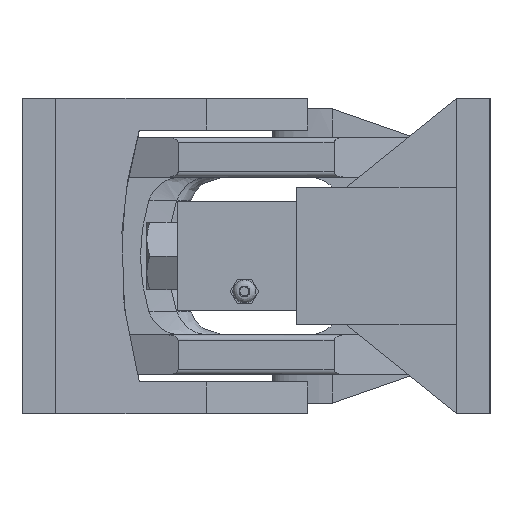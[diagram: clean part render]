
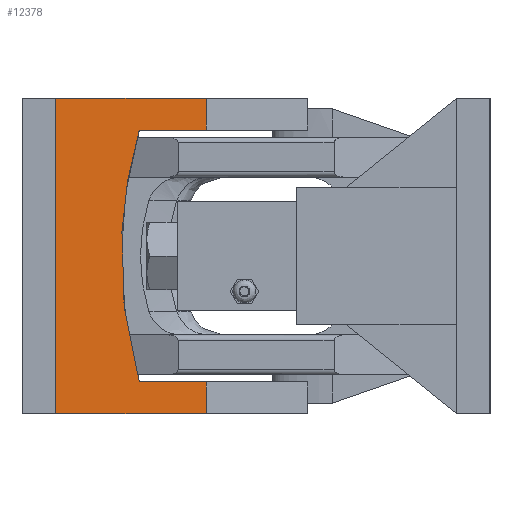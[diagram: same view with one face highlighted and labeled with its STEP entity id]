
A CAD part, left-side view. The second image highlights one B-rep face of the part: STEP entity #12378.
In plain terms, the highlighted planar face has unit normal (-0.998, -0.059, 0).
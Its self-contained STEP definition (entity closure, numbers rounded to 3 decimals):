
#32=ELLIPSE('',#13300,254.439,254.);
#442=PLANE('',#13311);
#1345=FACE_OUTER_BOUND('',#2073,.T.);
#2073=EDGE_LOOP('',(#11143,#11144,#11145,#11146,#11147,#11148,#11149,#11150));
#3581=LINE('',#60967,#4419);
#3592=LINE('',#60999,#4430);
#3598=LINE('',#61011,#4436);
#3606=LINE('',#61028,#4444);
#3618=LINE('',#61052,#4456);
#3619=LINE('',#61053,#4457);
#3620=LINE('',#61054,#4458);
#4419=VECTOR('',#15753,10.);
#4430=VECTOR('',#15780,10.);
#4436=VECTOR('',#15788,10.);
#4444=VECTOR('',#15802,10.);
#4456=VECTOR('',#15822,10.);
#4457=VECTOR('',#15823,10.);
#4458=VECTOR('',#15824,10.);
#5652=VERTEX_POINT('',#60965);
#5653=VERTEX_POINT('',#60966);
#5660=VERTEX_POINT('',#60983);
#5661=VERTEX_POINT('',#60984);
#5664=VERTEX_POINT('',#60995);
#5666=VERTEX_POINT('',#60998);
#5669=VERTEX_POINT('',#61005);
#5671=VERTEX_POINT('',#61009);
#7485=EDGE_CURVE('',#5652,#5653,#3581,.T.);
#7493=EDGE_CURVE('',#5660,#5661,#32,.T.);
#7500=EDGE_CURVE('',#5664,#5666,#3592,.T.);
#7506=EDGE_CURVE('',#5671,#5669,#3598,.T.);
#7516=EDGE_CURVE('',#5661,#5669,#3606,.T.);
#7528=EDGE_CURVE('',#5653,#5671,#3618,.T.);
#7529=EDGE_CURVE('',#5666,#5652,#3619,.T.);
#7530=EDGE_CURVE('',#5664,#5660,#3620,.T.);
#11143=ORIENTED_EDGE('',*,*,#7516,.T.);
#11144=ORIENTED_EDGE('',*,*,#7506,.F.);
#11145=ORIENTED_EDGE('',*,*,#7528,.F.);
#11146=ORIENTED_EDGE('',*,*,#7485,.F.);
#11147=ORIENTED_EDGE('',*,*,#7529,.F.);
#11148=ORIENTED_EDGE('',*,*,#7500,.F.);
#11149=ORIENTED_EDGE('',*,*,#7530,.T.);
#11150=ORIENTED_EDGE('',*,*,#7493,.T.);
#12378=ADVANCED_FACE('',(#1345),#442,.F.);
#13300=AXIS2_PLACEMENT_3D('',#60985,#15767,#15768);
#13311=AXIS2_PLACEMENT_3D('',#61051,#15820,#15821);
#15753=DIRECTION('',(0.,0.,1.));
#15767=DIRECTION('center_axis',(0.998,0.059,0.));
#15768=DIRECTION('ref_axis',(-0.059,0.998,0.));
#15780=DIRECTION('',(0.,0.,-1.));
#15788=DIRECTION('',(0.,0.,-1.));
#15802=DIRECTION('',(0.059,-0.998,0.));
#15820=DIRECTION('center_axis',(0.998,0.059,0.));
#15821=DIRECTION('ref_axis',(0.059,-0.998,0.));
#15822=DIRECTION('',(0.059,-0.998,0.));
#15823=DIRECTION('',(-0.059,0.998,0.));
#15824=DIRECTION('',(-0.059,0.998,0.));
#60965=CARTESIAN_POINT('',(-86.,245.,-89.));
#60966=CARTESIAN_POINT('',(-86.,245.,89.));
#60967=CARTESIAN_POINT('',(-86.,245.,44.5));
#60983=CARTESIAN_POINT('',(-83.228,197.875,-71.));
#60984=CARTESIAN_POINT('',(-83.228,197.875,71.));
#60985=CARTESIAN_POINT('Origin',(-68.882,-46.,0.));
#60995=CARTESIAN_POINT('',(-81.,160.,-71.));
#60998=CARTESIAN_POINT('',(-81.,160.,-89.));
#60999=CARTESIAN_POINT('',(-81.,160.,89.));
#61005=CARTESIAN_POINT('',(-81.,160.,71.));
#61009=CARTESIAN_POINT('',(-81.,160.,89.));
#61011=CARTESIAN_POINT('',(-81.,160.,89.));
#61028=CARTESIAN_POINT('',(-82.587,186.986,71.));
#61051=CARTESIAN_POINT('Origin',(-86.,245.,89.));
#61052=CARTESIAN_POINT('',(-86.129,247.198,89.));
#61053=CARTESIAN_POINT('',(-86.688,256.695,-89.));
#61054=CARTESIAN_POINT('',(-84.191,214.25,-71.));
